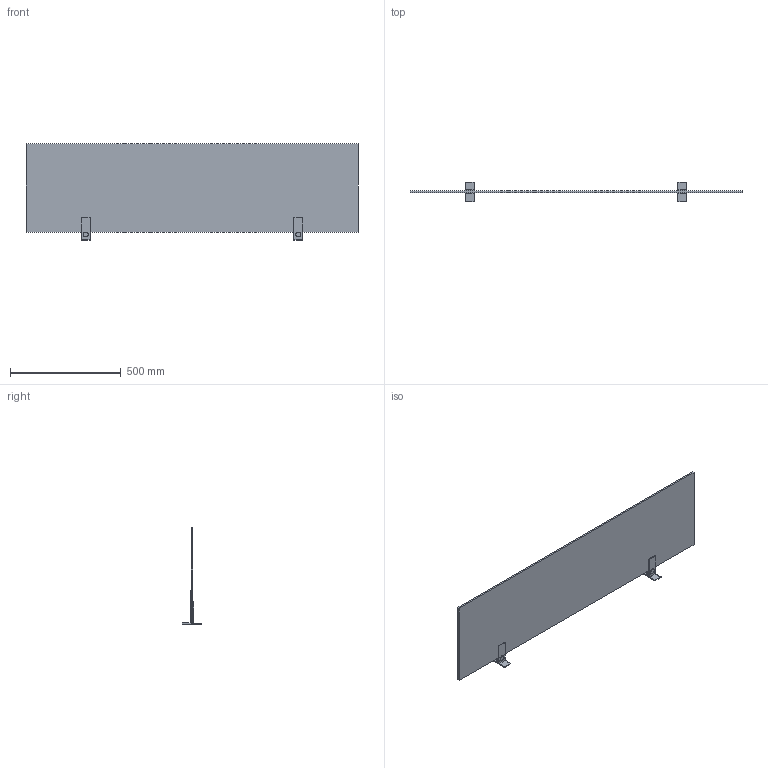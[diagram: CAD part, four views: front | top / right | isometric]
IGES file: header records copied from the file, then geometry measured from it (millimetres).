
Start section: Data from Parasolid IGES Translator 20.0.26, Copyright(c) 2006 Siemens P LM Software. All Rights Reserved.
Global section: file name: 9309842.igs; native system: By Siemens PLM Incorporated; preprocessor: XPlus GENERIC/IGES 20.0.26; author: Noname; organization: Noname; date: 20220302.125204; units: millimetre
Bounding box: 1500 x 88 x 436 mm (x, y, z)
Surface area: 1289990.4 mm2 (no closed solid volume)
Topology: 0 solids, 0 shells, 72 faces, 312 edges, 296 vertices
Faces by surface type: extrusion 64, revolution 8
